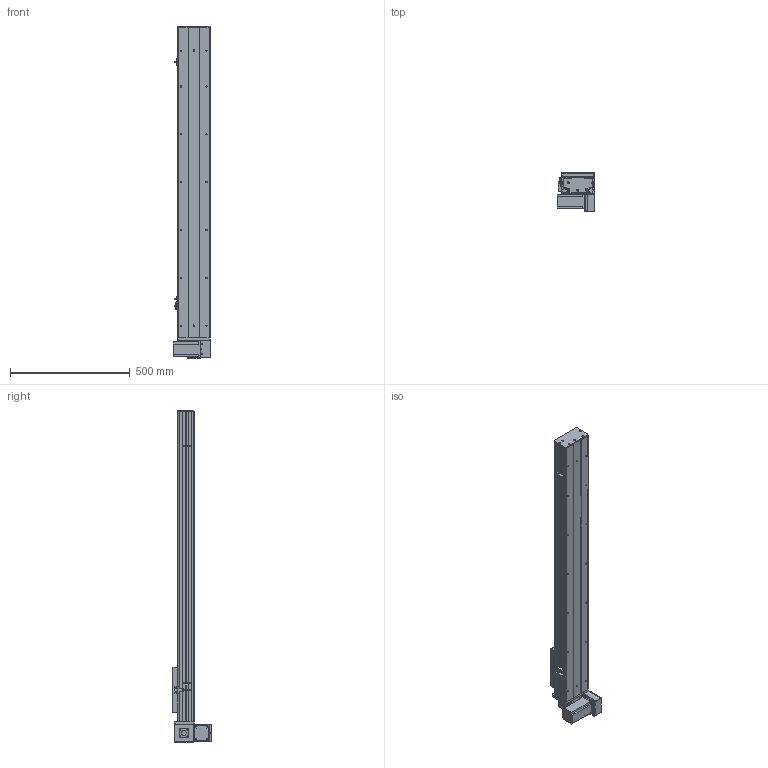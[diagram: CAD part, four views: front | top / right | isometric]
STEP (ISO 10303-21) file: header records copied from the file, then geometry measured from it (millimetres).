
FILE_DESCRIPTION (( 'STEP AP203' ), '1' );
FILE_NAME ('Y135CB-D90-S1000-BM-P400W.STEP', '2020-02-19T01:18:59', ( '微软用户' ), ( '微软中国' ), 'SwSTEP 2.0', 'SolidWorks 2017', '' );
FILE_SCHEMA (( 'CONFIG_CONTROL_DESIGN' ));
Length unit declared in the file: millimetre
Products named in the file (18): Y135CB-D90-S1000-BM-P400W; 135CB--詩湍-CE; 135CB---遴掛极.-; Y100-135俋离換覜ん--; 35CB---喘謫眊楊擘啣; Y135C-陔俋离換覜結え-; 0B-埴倛裔啣; 5C--俋欶; 0B-源倛裔啣; C-雄赽釱--; 0B-萇儂楊擘啣; Y10B--々湍喘謫眊--666; san松下电机400不带刹车----; 00B-俋欶BM--; 5CB --掛极耜裔啣-; Y10B-耜蚾蟀諉啣----; C-詩湍揤踡え-陔; Y135CB-耜裔
Assembly tree (21 placements, depth 2):
  Y135CB-D90-S1000-BM-P400W
    Y135CB-耜裔
    135CB---遴掛极.-
    35CB---喘謫眊楊擘啣
    0B-埴倛裔啣
    0B-源倛裔啣
    0B-萇儂楊擘啣
    san松下电机400不带刹车----
    5CB --掛极耜裔啣-  x2
    C-詩湍揤踡え-陔  x2
    135CB--詩湍-CE
    Y100-135俋离換覜ん--  x3
    Y135C-陔俋离換覜結え-
    5C--俋欶
    C-雄赽釱--
    Y10B--々湍喘謫眊--666
    00B-俋欶BM--
    Y10B-耜蚾蟀諉啣----
Bounding box: 157 x 163.3 x 1388 mm (x, y, z)
Volume: 4386452.7 mm3; surface area: 1716220 mm2
Topology: 21 solids, 21 shells, 945 faces, 2527 edges, 1674 vertices
Faces by surface type: cylinder 473, plane 456, cone 16
Entity records: 29349 total; most frequent: DIRECTION 4875, CARTESIAN_POINT 4812, ORIENTED_EDGE 4530, EDGE_CURVE 2265, AXIS2_PLACEMENT_3D 1777, VERTEX_POINT 1502, LINE 1321, VECTOR 1321
